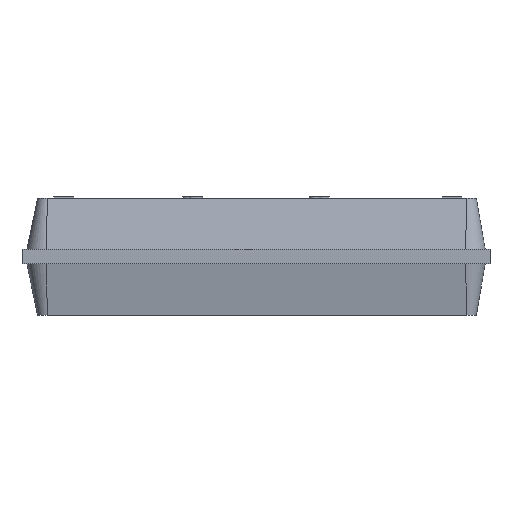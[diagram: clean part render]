
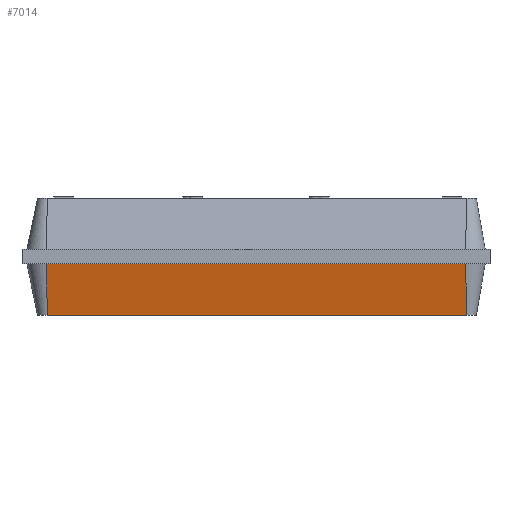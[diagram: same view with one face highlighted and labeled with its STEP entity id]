
A CAD part, left-side view. The second image highlights one B-rep face of the part: STEP entity #7014.
In plain terms, the highlighted planar face has unit normal (-0.982, 0, -0.19).
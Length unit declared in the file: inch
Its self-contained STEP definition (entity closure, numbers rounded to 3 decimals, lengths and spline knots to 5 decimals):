
#724=FACE_OUTER_BOUND('',#1146,.T.);
#1146=EDGE_LOOP('',(#6132,#6133,#6134,#6135));
#1870=LINE('',#12267,#2636);
#1874=LINE('',#12283,#2640);
#1875=LINE('',#12285,#2641);
#1876=LINE('',#12286,#2642);
#2636=VECTOR('',#8430,2.6875);
#2640=VECTOR('',#8444,0.33425);
#2641=VECTOR('',#8445,2.6875);
#2642=VECTOR('',#8446,0.33425);
#3348=VERTEX_POINT('',#12265);
#3349=VERTEX_POINT('',#12266);
#3356=VERTEX_POINT('',#12282);
#3357=VERTEX_POINT('',#12284);
#4294=EDGE_CURVE('',#3348,#3349,#1870,.T.);
#4302=EDGE_CURVE('',#3348,#3356,#1874,.T.);
#4303=EDGE_CURVE('',#3357,#3356,#1875,.T.);
#4304=EDGE_CURVE('',#3357,#3349,#1876,.T.);
#6132=ORIENTED_EDGE('',*,*,#4294,.F.);
#6133=ORIENTED_EDGE('',*,*,#4302,.T.);
#6134=ORIENTED_EDGE('',*,*,#4303,.F.);
#6135=ORIENTED_EDGE('',*,*,#4304,.T.);
#6624=PLANE('',#7294);
#7014=ADVANCED_FACE('',(#724),#6624,.F.);
#7294=AXIS2_PLACEMENT_3D('',#12281,#8442,#8443);
#8430=DIRECTION('',(0.,1.,0.));
#8442=DIRECTION('center_axis',(0.982,0.,0.19));
#8443=DIRECTION('ref_axis',(0.19,0.,-0.982));
#8444=DIRECTION('',(-0.19,0.017,0.982));
#8445=DIRECTION('',(0.,-1.,0.));
#8446=DIRECTION('',(0.19,-0.017,-0.982));
#12265=CARTESIAN_POINT('',(-1.40625,-1.34978,-0.375));
#12266=CARTESIAN_POINT('',(-1.40625,1.33772,-0.375));
#12267=CARTESIAN_POINT('',(-1.40625,-1.34978,-0.375));
#12281=CARTESIAN_POINT('Origin',(-1.40625,-1.34978,-0.375));
#12282=CARTESIAN_POINT('',(-1.46966,-1.344,-0.04688));
#12283=CARTESIAN_POINT('',(-1.40625,-1.34978,-0.375));
#12284=CARTESIAN_POINT('',(-1.46966,1.3435,-0.04688));
#12285=CARTESIAN_POINT('',(-1.46966,-0.67489,-0.04688));
#12286=CARTESIAN_POINT('',(-1.46966,1.3435,-0.04688));
